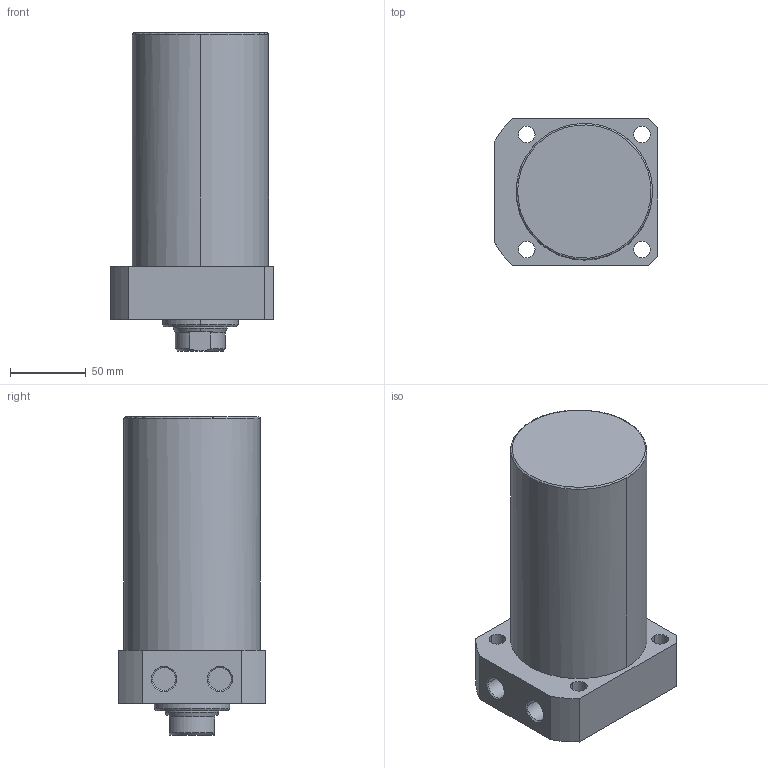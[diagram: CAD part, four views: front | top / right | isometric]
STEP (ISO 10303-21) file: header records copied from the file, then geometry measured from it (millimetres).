
FILE_DESCRIPTION((' '),'2;1');
FILE_NAME( 'TLLR-090CA-110.STEP.stp', '2025-10-24T16:35:18', (' '), ('--- Datakit www.datakit.com---'), ' Datakit CrossCadWare V2024.1 Dec 21 2023', 'Mastercam 2025', ' ');
FILE_SCHEMA(('AUTOMOTIVE_DESIGN { 1 0 10303 214 1 1 1 1 }'));
Length unit declared in the file: millimetre
Products named in the file (1): TLLR-090CA-110
Bounding box: 108 x 97 x 210 mm (x, y, z)
Volume: 1328611.1 mm3; surface area: 88629.9 mm2
Topology: 1 solids, 1 shells, 63 faces, 177 edges, 122 vertices
Faces by surface type: cylinder 28, plane 19, cone 14, torus 2
Entity records: 2172 total; most frequent: CARTESIAN_POINT 409, DIRECTION 400, ORIENTED_EDGE 350, EDGE_CURVE 175, AXIS2_PLACEMENT_3D 169, VERTEX_POINT 122, CIRCLE 105, EDGE_LOOP 79
